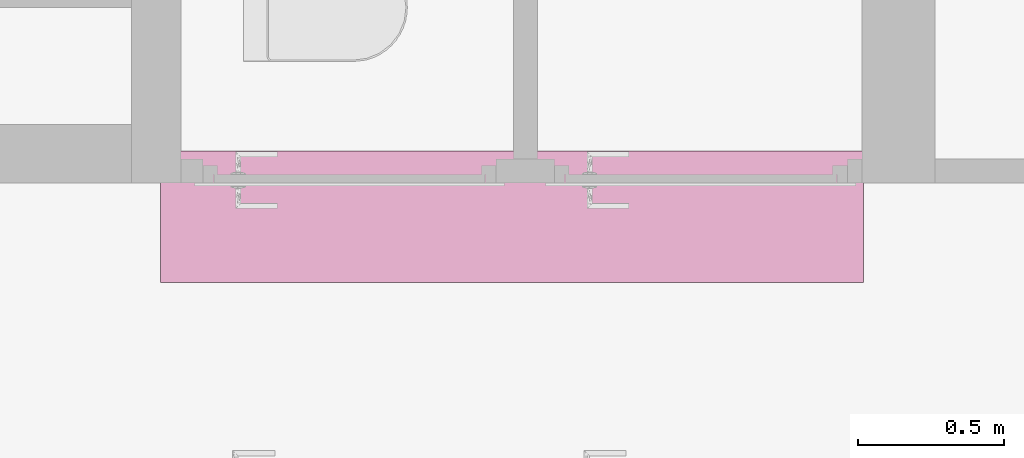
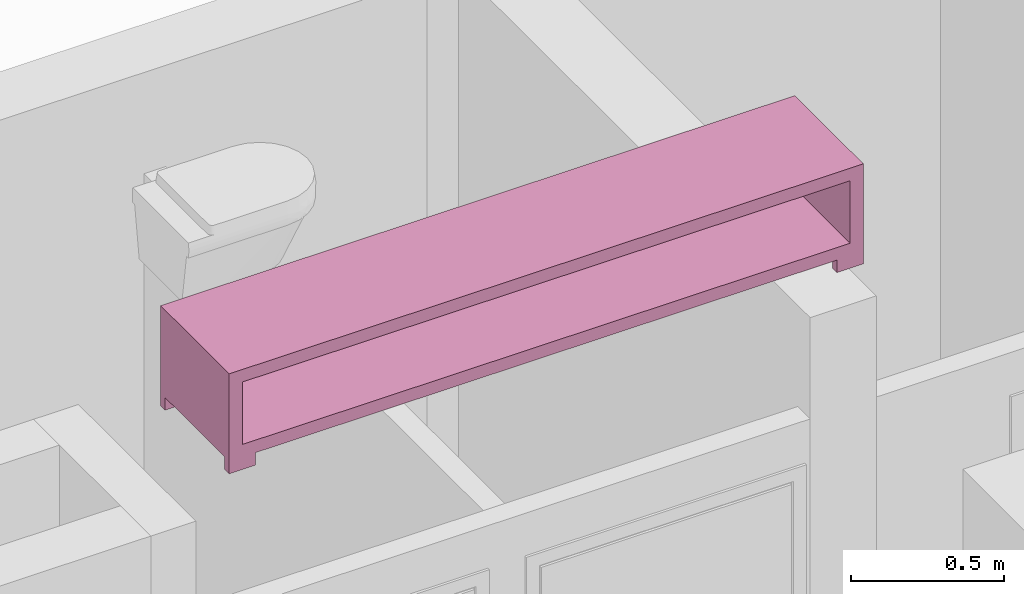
# One storey, part 16 of 55: 1 furnishing.
"""IFC2X3 building model written with IfcOpenShell, lengths in millimetres."""

from ifc_helpers import new_model, entity, si_unit, converted_unit, direction, frame, frame_2d, origin, origin_2d_with_axis, place, context, subcontext, project, spatial, polyline, rectangle, outline, extrude, source, transform, mapped, material, type_object, type_shapes, element, save


model = new_model("IFC2X3")

# Units and contexts
model_context = context("Model", 3, precision=0.01, world=origin(), true_north=direction((6.123233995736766e-17, 1.0)))
plan_context = context("Plan", 3, precision=0.01, world=origin(), true_north=direction((6.123233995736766e-17, 1.0)))
body_context = subcontext(model_context, "Body", "Model", "MODEL_VIEW")
ifc_project = project(units=[si_unit("LENGTHUNIT", "METRE", prefix="MILLI"), converted_unit("PLANEANGLEUNIT", "DEGREE", entity("IfcPlaneAngleMeasure", 0.017453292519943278), si_unit("PLANEANGLEUNIT", "RADIAN"), dimensions=[0, 0, 0, 0, 0, 0, 0]), si_unit("AREAUNIT", "SQUARE_METRE")], contexts=[model_context, plan_context])

# Site, building, storey, space
site_placement = place(None, origin())
site = spatial("IfcSite", under=ifc_project, at=site_placement, Name="Default", CompositionType="ELEMENT")
building_placement = place(site_placement, origin())
building = spatial("IfcBuilding", under=site, at=building_placement, CompositionType="ELEMENT")
storey_placement = place(building_placement, origin())
storey = spatial("IfcBuildingStorey", under=building, at=storey_placement, Name="1K", CompositionType="ELEMENT", Elevation=0.0)
space_placement = place(storey_placement, origin())
space = spatial("IfcSpace", under=storey, at=space_placement, Name="1-0.6", CompositionType="ELEMENT", InteriorOrExteriorSpace="INTERNAL")

# Furnishing
ifc_material = material(Name="<Unnamed>")
furniture_type = type_object("IfcFurnitureType", Name="HR_Furniture_TV-stand_Generic_v2016-05-13:Default", AssemblyPlace="NOTDEFINED", material=ifc_material)
shared_shape = source(origin(), body_context, "Body", "SweptSolid", [
    extrude(rectangle(XDim=99.99999999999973, YDim=29.999999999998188, at=origin_2d_with_axis()), frame((1150.0, 15.0, 0.0), z_axis=(0.0, 0.0, 1.0), x_axis=(-1.0, 0.0, 0.0)), (0.0, 0.0, 1.0), 49.99999999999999),
    extrude(rectangle(XDim=30.000000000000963, YDim=99.99999999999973, at=frame_2d((-3.375077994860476e-14, 0.0), x_axis=(1.0, 0.0))), frame((1150.0, 435.0, 0.0), z_axis=(0.0, 0.0, 1.0), x_axis=(0.0, 1.0, 0.0)), (0.0, 0.0, 1.0), 49.99999999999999),
    extrude(rectangle(XDim=30.000000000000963, YDim=99.99999999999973, at=frame_2d((-3.375077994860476e-14, 0.0), x_axis=(1.0, 0.0))), frame((-1150.0, 435.0, 0.0), z_axis=(0.0, 0.0, 1.0), x_axis=(0.0, 1.0, 0.0)), (0.0, 0.0, 1.0), 49.99999999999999),
    extrude(rectangle(XDim=99.99999999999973, YDim=29.999999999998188, at=origin_2d_with_axis()), frame((-1150.0, 15.0, 0.0), z_axis=(0.0, 0.0, 1.0), x_axis=(-1.0, 0.0, 0.0)), (0.0, 0.0, 1.0), 49.99999999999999),
    extrude(outline(polyline([(-175.0, -1200.0), (175.0, -1200.0), (175.0, 1200.0), (-175.0, 1200.0), (-175.0, -1200.0)]), holes=[polyline([(-125.0, -1150.0), (-125.0, 1150.0), (125.0, 1150.0), (125.0, -1150.0), (-125.0, -1150.0)])]), frame((0.0, 0.0, 225.0), z_axis=(0.0, 1.0, 0.0), x_axis=(0.0, 0.0, -1.0)), (0.0, 0.0, 1.0), 449.9999999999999),
])
type_shapes(furniture_type, [shared_shape])
furnishing_placement = place(space_placement, frame((10699.993534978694, 4210.0, 3125.0), z_axis=(0.0, 0.0, 1.0), x_axis=(-1.0, 0.0, 0.0)))
element("IfcFurnishingElement", 1, at=furnishing_placement, inside=space, type_object=furniture_type, material=ifc_material, Name="HR_Furniture_TV-stand_Generic_v2016-05-13:Default", ObjectType="HR_Furniture_TV-stand_Generic_v2016-05-13:Default", context=body_context, shape_type="MappedRepresentation", body=[
    mapped(shared_shape, transform((0.0, 0.0, 0.0), scale=1.0)),
])

save(model, "model.ifc")
